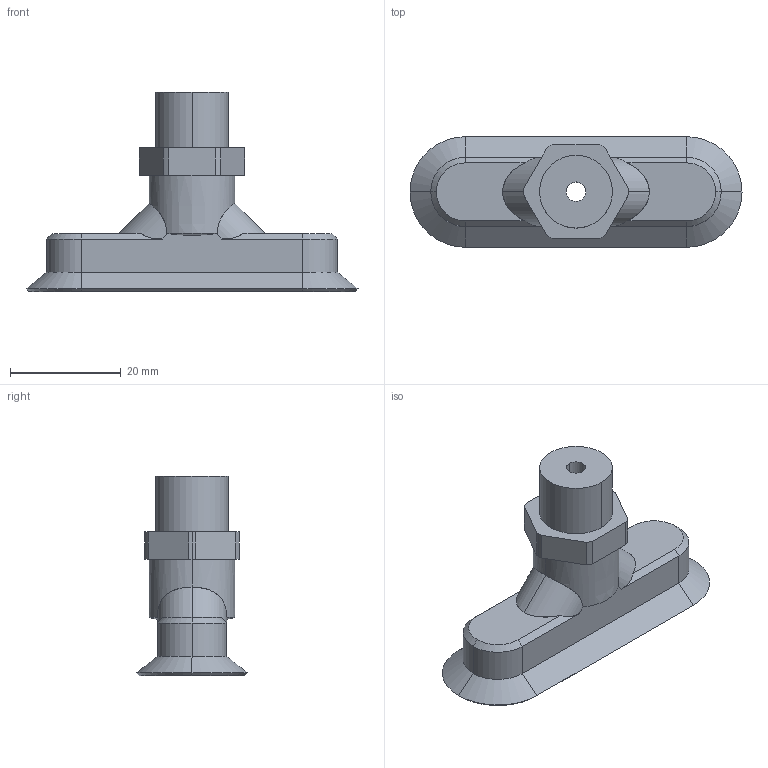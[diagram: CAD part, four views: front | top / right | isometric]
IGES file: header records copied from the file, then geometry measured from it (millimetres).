
Start section: 3D InterOp IGES (v. 2018 1.0.2), Spatial Corp. Copyright (c) 1999-2017.
Global section: file name: schmalz_10_01_05_00096_1p5lc9de5vyj202yd2fez2esa.igs; native system: Spatial Corp.; preprocessor: 3D InterOp ACIS/IGES; author: TraceParts; organization: TraceParts S.A.; date: 20181120.042545; units: millimetre
Bounding box: 60 x 20 x 36 mm (x, y, z)
Surface area: 5268.5 mm2 (no closed solid volume)
Topology: 0 solids, 0 shells, 91 faces, 428 edges, 428 vertices
Faces by surface type: revolution 54, extrusion 37
